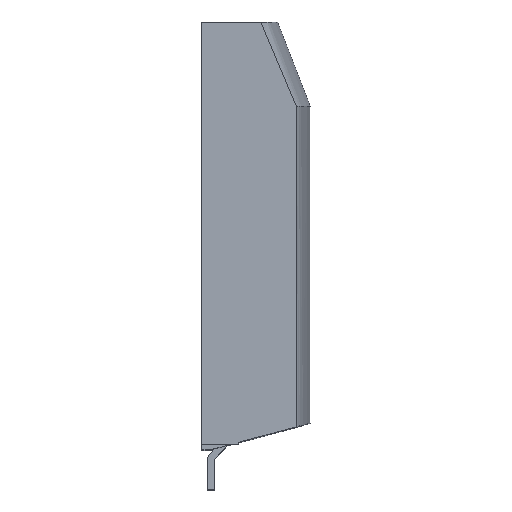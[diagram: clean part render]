
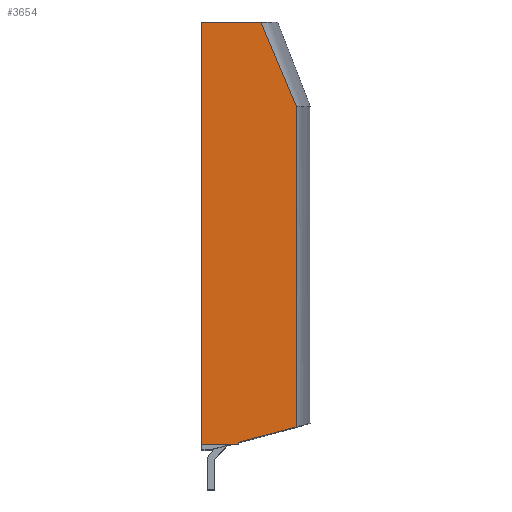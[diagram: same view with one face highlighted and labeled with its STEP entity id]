
A CAD part, top view. The second image highlights one B-rep face of the part: STEP entity #3654.
In plain terms, the highlighted planar face has unit normal (0, 0, 1).
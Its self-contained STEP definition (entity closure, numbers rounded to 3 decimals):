
#6 = VERTEX_POINT ( 'NONE', #3944 ) ;
#135 = VERTEX_POINT ( 'NONE', #1924 ) ;
#165 = B_SPLINE_CURVE_WITH_KNOTS ( 'NONE', 3,
 ( #2379, #2355, #2387, #2388 ),
 .UNSPECIFIED., .F., .F.,
 ( 4, 4 ),
 ( 0., 1. ),
 .UNSPECIFIED. ) ;
#635 = CARTESIAN_POINT ( 'NONE',  ( 0., 137., 60. ) ) ;
#638 = CARTESIAN_POINT ( 'NONE',  ( 0., -6.039, 60. ) ) ;
#667 = CARTESIAN_POINT ( 'NONE',  ( 32.078, 108.49, 60. ) ) ;
#700 = CARTESIAN_POINT ( 'NONE',  ( 32.078, -0.056, 60. ) ) ;
#701 = CARTESIAN_POINT ( 'NONE',  ( 20.046, 137., 60. ) ) ;
#1009 = ORIENTED_EDGE ( 'NONE', *, *, #3443, .T. ) ;
#1010 = ORIENTED_EDGE ( 'NONE', *, *, #3444, .T. ) ;
#1011 = ORIENTED_EDGE ( 'NONE', *, *, #3419, .F. ) ;
#1012 = ORIENTED_EDGE ( 'NONE', *, *, #3445, .F. ) ;
#1013 = ORIENTED_EDGE ( 'NONE', *, *, #3441, .T. ) ;
#1014 = ORIENTED_EDGE ( 'NONE', *, *, #1178, .F. ) ;
#1015 = ORIENTED_EDGE ( 'NONE', *, *, #3446, .F. ) ;
#1090 = EDGE_LOOP ( 'NONE', ( #1009, #1010, #1011, #1012, #1013, #1014, #1015 ) ) ;
#1178 = EDGE_CURVE ( 'NONE', #135, #6, #3298, .T. ) ;
#1491 = CARTESIAN_POINT ( 'NONE',  ( 0., 137., 60. ) ) ;
#1499 = FACE_OUTER_BOUND ( 'NONE', #1090, .T. ) ;
#1500 = PLANE ( 'NONE',  #3512 ) ;
#1502 = DIRECTION ( 'NONE',  ( 0., 0., -1. ) ) ;
#1503 = DIRECTION ( 'NONE',  ( 0., -1., 0. ) ) ;
#1924 = CARTESIAN_POINT ( 'NONE',  ( 12.5, -5.302, 60. ) ) ;
#2051 = VECTOR ( 'NONE', #2242, 1000. ) ;
#2240 = LINE ( 'NONE', #2241, #2051 ) ;
#2241 = CARTESIAN_POINT ( 'NONE',  ( 0., 137., 60. ) ) ;
#2242 = DIRECTION ( 'NONE',  ( 1., 0., 0. ) ) ;
#2355 = CARTESIAN_POINT ( 'NONE',  ( 28.067, 117.993, 60. ) ) ;
#2378 = LINE ( 'NONE', #2380, #3691 ) ;
#2379 = CARTESIAN_POINT ( 'NONE',  ( 32.078, 108.49, 60. ) ) ;
#2380 = CARTESIAN_POINT ( 'NONE',  ( 0., -6.039, 60. ) ) ;
#2381 = DIRECTION ( 'NONE',  ( 1., 0., 0. ) ) ;
#2384 = LINE ( 'NONE', #2385, #3697 ) ;
#2385 = CARTESIAN_POINT ( 'NONE',  ( 32.078, -64.08, 60. ) ) ;
#2386 = DIRECTION ( 'NONE',  ( 0., 1., 0. ) ) ;
#2387 = CARTESIAN_POINT ( 'NONE',  ( 24.057, 127.497, 60. ) ) ;
#2388 = CARTESIAN_POINT ( 'NONE',  ( 20.046, 137., 60. ) ) ;
#2389 = LINE ( 'NONE', #2390, #3694 ) ;
#2390 = CARTESIAN_POINT ( 'NONE',  ( 0., 137., 60. ) ) ;
#2391 = DIRECTION ( 'NONE',  ( 0., 1., 0. ) ) ;
#2392 = LINE ( 'NONE', #2393, #2864 ) ;
#2393 = CARTESIAN_POINT ( 'NONE',  ( 12.5, -5.302, 60. ) ) ;
#2394 = DIRECTION ( 'NONE',  ( -0.966, -0.259, 0. ) ) ;
#2699 = VERTEX_POINT ( 'NONE', #635 ) ;
#2702 = VERTEX_POINT ( 'NONE', #638 ) ;
#2731 = VERTEX_POINT ( 'NONE', #667 ) ;
#2764 = VERTEX_POINT ( 'NONE', #700 ) ;
#2765 = VERTEX_POINT ( 'NONE', #701 ) ;
#2864 = VECTOR ( 'NONE', #2394, 1000. ) ;
#2975 = VECTOR ( 'NONE', #3314, 1000. ) ;
#3298 = LINE ( 'NONE', #3312, #2975 ) ;
#3312 = CARTESIAN_POINT ( 'NONE',  ( 12.5, -9.5, 60. ) ) ;
#3314 = DIRECTION ( 'NONE',  ( 0., -1., 0. ) ) ;
#3419 = EDGE_CURVE ( 'NONE', #2699, #2765, #2240, .T. ) ;
#3441 = EDGE_CURVE ( 'NONE', #2702, #6, #2378, .T. ) ;
#3443 = EDGE_CURVE ( 'NONE', #2764, #2731, #2384, .T. ) ;
#3444 = EDGE_CURVE ( 'NONE', #2731, #2765, #165, .T. ) ;
#3445 = EDGE_CURVE ( 'NONE', #2702, #2699, #2389, .T. ) ;
#3446 = EDGE_CURVE ( 'NONE', #2764, #135, #2392, .T. ) ;
#3512 = AXIS2_PLACEMENT_3D ( 'NONE', #1491, #1502, #1503 ) ;
#3654 = ADVANCED_FACE ( 'NONE', ( #1499 ), #1500, .F. ) ;
#3691 = VECTOR ( 'NONE', #2381, 1000. ) ;
#3694 = VECTOR ( 'NONE', #2391, 1000. ) ;
#3697 = VECTOR ( 'NONE', #2386, 1000. ) ;
#3944 = CARTESIAN_POINT ( 'NONE',  ( 12.5, -6.039, 60. ) ) ;
